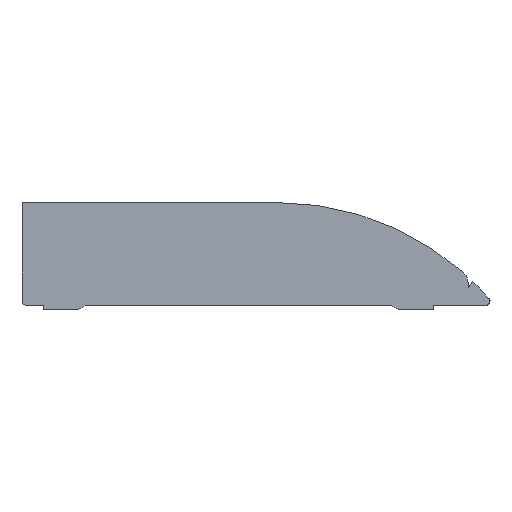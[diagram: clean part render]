
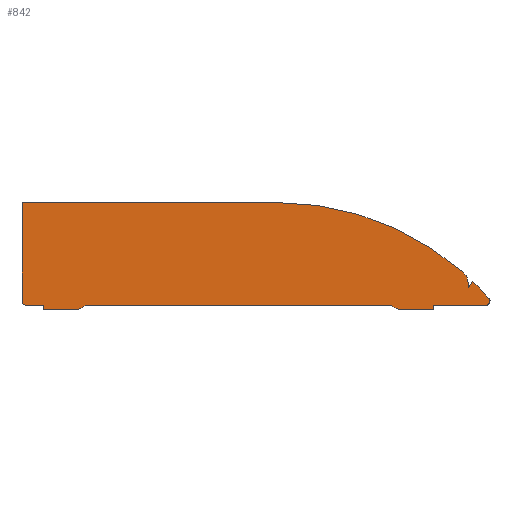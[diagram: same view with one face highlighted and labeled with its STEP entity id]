
A CAD part, left-side view. The second image highlights one B-rep face of the part: STEP entity #842.
In plain terms, the highlighted planar face has unit normal (-1, 0, 0).
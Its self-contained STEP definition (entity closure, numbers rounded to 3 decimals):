
#38=CIRCLE('',#909,6.);
#39=CIRCLE('',#910,6.);
#40=CIRCLE('',#911,2.);
#41=CIRCLE('',#912,136.5);
#42=CIRCLE('',#913,7.3);
#43=CIRCLE('',#914,136.5);
#44=CIRCLE('',#915,2.);
#83=ORIENTED_EDGE('',*,*,#327,.F.);
#84=ORIENTED_EDGE('',*,*,#328,.T.);
#85=ORIENTED_EDGE('',*,*,#329,.T.);
#86=ORIENTED_EDGE('',*,*,#330,.T.);
#87=ORIENTED_EDGE('',*,*,#299,.F.);
#88=ORIENTED_EDGE('',*,*,#331,.F.);
#89=ORIENTED_EDGE('',*,*,#332,.F.);
#90=ORIENTED_EDGE('',*,*,#333,.F.);
#91=ORIENTED_EDGE('',*,*,#334,.F.);
#92=ORIENTED_EDGE('',*,*,#335,.T.);
#93=ORIENTED_EDGE('',*,*,#336,.F.);
#94=ORIENTED_EDGE('',*,*,#337,.F.);
#95=ORIENTED_EDGE('',*,*,#338,.F.);
#96=ORIENTED_EDGE('',*,*,#339,.F.);
#97=ORIENTED_EDGE('',*,*,#340,.F.);
#98=ORIENTED_EDGE('',*,*,#307,.F.);
#99=ORIENTED_EDGE('',*,*,#341,.F.);
#100=ORIENTED_EDGE('',*,*,#342,.T.);
#299=EDGE_CURVE('',#422,#423,#504,.T.);
#307=EDGE_CURVE('',#430,#431,#512,.T.);
#327=EDGE_CURVE('',#448,#449,#525,.T.);
#328=EDGE_CURVE('',#448,#450,#526,.T.);
#329=EDGE_CURVE('',#450,#451,#527,.T.);
#330=EDGE_CURVE('',#451,#423,#38,.T.);
#331=EDGE_CURVE('',#452,#422,#39,.F.);
#332=EDGE_CURVE('',#453,#452,#528,.T.);
#333=EDGE_CURVE('',#454,#453,#529,.T.);
#334=EDGE_CURVE('',#455,#454,#530,.T.);
#335=EDGE_CURVE('',#455,#456,#40,.F.);
#336=EDGE_CURVE('',#457,#456,#41,.T.);
#337=EDGE_CURVE('',#458,#457,#531,.T.);
#338=EDGE_CURVE('',#459,#458,#532,.T.);
#339=EDGE_CURVE('',#460,#459,#42,.T.);
#340=EDGE_CURVE('',#431,#460,#43,.T.);
#341=EDGE_CURVE('',#461,#430,#533,.T.);
#342=EDGE_CURVE('',#461,#449,#44,.F.);
#422=VERTEX_POINT('',#1208);
#423=VERTEX_POINT('',#1209);
#430=VERTEX_POINT('',#1225);
#431=VERTEX_POINT('',#1226);
#448=VERTEX_POINT('',#1265);
#449=VERTEX_POINT('',#1266);
#450=VERTEX_POINT('',#1268);
#451=VERTEX_POINT('',#1270);
#452=VERTEX_POINT('',#1273);
#453=VERTEX_POINT('',#1275);
#454=VERTEX_POINT('',#1277);
#455=VERTEX_POINT('',#1279);
#456=VERTEX_POINT('',#1281);
#457=VERTEX_POINT('',#1283);
#458=VERTEX_POINT('',#1285);
#459=VERTEX_POINT('',#1287);
#460=VERTEX_POINT('',#1289);
#461=VERTEX_POINT('',#1292);
#504=LINE('',#1207,#605);
#512=LINE('',#1224,#613);
#525=LINE('',#1264,#626);
#526=LINE('',#1267,#627);
#527=LINE('',#1269,#628);
#528=LINE('',#1274,#629);
#529=LINE('',#1276,#630);
#530=LINE('',#1278,#631);
#531=LINE('',#1284,#632);
#532=LINE('',#1286,#633);
#533=LINE('',#1291,#634);
#605=VECTOR('',#970,1000.);
#613=VECTOR('',#980,1000.);
#626=VECTOR('',#1011,1000.);
#627=VECTOR('',#1012,1000.);
#628=VECTOR('',#1013,1000.);
#629=VECTOR('',#1018,1000.);
#630=VECTOR('',#1019,1000.);
#631=VECTOR('',#1020,1000.);
#632=VECTOR('',#1025,1000.);
#633=VECTOR('',#1026,1000.);
#634=VECTOR('',#1031,1000.);
#710=EDGE_LOOP('',(#83,#84,#85,#86,#87,#88,#89,#90,#91,#92,#93,#94,#95,
#96,#97,#98,#99,#100));
#759=FACE_BOUND('',#710,.T.);
#807=PLANE('',#908);
#842=ADVANCED_FACE('',(#759),#807,.F.);
#908=AXIS2_PLACEMENT_3D('',#1263,#1009,#1010);
#909=AXIS2_PLACEMENT_3D('',#1271,#1014,#1015);
#910=AXIS2_PLACEMENT_3D('',#1272,#1016,#1017);
#911=AXIS2_PLACEMENT_3D('',#1280,#1021,#1022);
#912=AXIS2_PLACEMENT_3D('',#1282,#1023,#1024);
#913=AXIS2_PLACEMENT_3D('',#1288,#1027,#1028);
#914=AXIS2_PLACEMENT_3D('',#1290,#1029,#1030);
#915=AXIS2_PLACEMENT_3D('',#1293,#1032,#1033);
#970=DIRECTION('',(0.,1.,0.));
#980=DIRECTION('',(0.,-1.,0.));
#1009=DIRECTION('',(1.,0.,0.));
#1010=DIRECTION('',(0.,1.,0.));
#1011=DIRECTION('',(0.,1.,0.));
#1012=DIRECTION('',(0.,0.,-1.));
#1013=DIRECTION('',(0.,-1.,0.));
#1014=DIRECTION('',(-1.,0.,0.));
#1015=DIRECTION('',(0.,-1.,0.));
#1016=DIRECTION('',(-1.,0.,0.));
#1017=DIRECTION('',(0.,-1.,0.));
#1018=DIRECTION('',(0.,1.,0.));
#1019=DIRECTION('',(0.,0.,-1.));
#1020=DIRECTION('',(0.,1.,0.));
#1021=DIRECTION('',(1.,0.,0.));
#1022=DIRECTION('',(0.,1.,0.));
#1023=DIRECTION('',(1.,0.,0.));
#1024=DIRECTION('',(0.,1.,0.));
#1025=DIRECTION('',(0.,-0.5,0.866));
#1026=DIRECTION('',(0.,-0.087,-0.996));
#1027=DIRECTION('',(1.,0.,0.));
#1028=DIRECTION('',(0.,1.,0.));
#1029=DIRECTION('',(1.,0.,0.));
#1030=DIRECTION('',(0.,1.,0.));
#1031=DIRECTION('',(0.,0.,1.));
#1032=DIRECTION('',(1.,0.,0.));
#1033=DIRECTION('',(0.,1.,0.));
#1207=CARTESIAN_POINT('',(-629.,-171.594,0.));
#1208=CARTESIAN_POINT('',(-629.,-121.228,0.));
#1209=CARTESIAN_POINT('',(-629.,27.946,0.));
#1224=CARTESIAN_POINT('',(-629.,66.,50.));
#1225=CARTESIAN_POINT('',(-629.,58.818,50.));
#1226=CARTESIAN_POINT('',(-629.,-66.,50.));
#1263=CARTESIAN_POINT('',(-629.,66.,-86.5));
#1264=CARTESIAN_POINT('',(-629.,-171.594,0.));
#1265=CARTESIAN_POINT('',(-629.,48.518,0.));
#1266=CARTESIAN_POINT('',(-629.,56.818,0.));
#1267=CARTESIAN_POINT('',(-629.,48.518,0.));
#1268=CARTESIAN_POINT('',(-629.,48.518,-2.));
#1269=CARTESIAN_POINT('',(-629.,48.518,-2.));
#1270=CARTESIAN_POINT('',(-629.,32.418,-2.));
#1271=CARTESIAN_POINT('',(-629.,32.418,4.));
#1272=CARTESIAN_POINT('',(-629.,-125.7,4.));
#1273=CARTESIAN_POINT('',(-629.,-125.7,-2.));
#1274=CARTESIAN_POINT('',(-629.,-141.8,-2.));
#1275=CARTESIAN_POINT('',(-629.,-141.8,-2.));
#1276=CARTESIAN_POINT('',(-629.,-141.8,0.));
#1277=CARTESIAN_POINT('',(-629.,-141.8,0.));
#1278=CARTESIAN_POINT('',(-629.,-171.594,0.));
#1279=CARTESIAN_POINT('',(-629.,-167.282,0.));
#1280=CARTESIAN_POINT('',(-629.,-167.282,2.));
#1281=CARTESIAN_POINT('',(-629.,-168.788,3.316));
#1282=CARTESIAN_POINT('',(-629.,-66.,-86.5));
#1283=CARTESIAN_POINT('',(-629.,-160.759,11.75));
#1284=CARTESIAN_POINT('',(-629.,-158.852,8.447));
#1285=CARTESIAN_POINT('',(-629.,-158.852,8.447));
#1286=CARTESIAN_POINT('',(-629.,-158.616,11.136));
#1287=CARTESIAN_POINT('',(-629.,-158.616,11.136));
#1288=CARTESIAN_POINT('',(-629.,-151.344,10.5));
#1289=CARTESIAN_POINT('',(-629.,-156.166,15.981));
#1290=CARTESIAN_POINT('',(-629.,-66.,-86.5));
#1291=CARTESIAN_POINT('',(-629.,58.818,-86.5));
#1292=CARTESIAN_POINT('',(-629.,58.818,2.));
#1293=CARTESIAN_POINT('',(-629.,56.818,2.));
